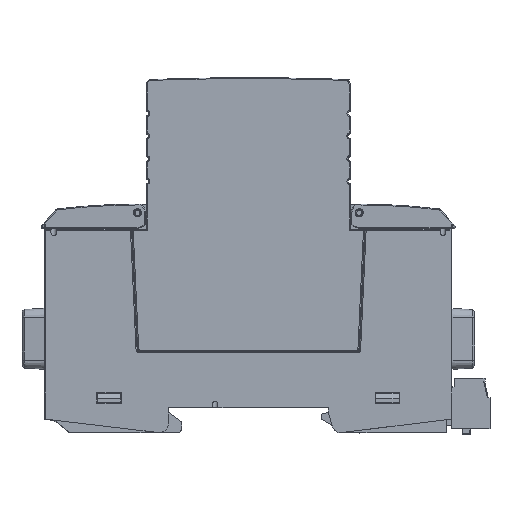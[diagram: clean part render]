
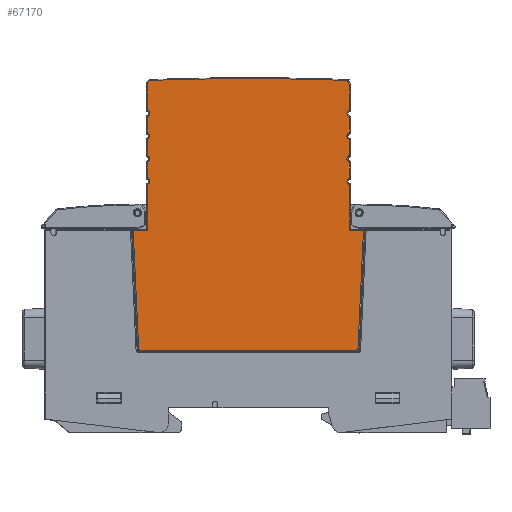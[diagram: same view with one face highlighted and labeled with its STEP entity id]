
A CAD part, top view. The second image highlights one B-rep face of the part: STEP entity #67170.
In plain terms, the highlighted planar face has unit normal (0, 0, 1) as drawn and (0, 0, -1) by its records, which use the part's own axes.
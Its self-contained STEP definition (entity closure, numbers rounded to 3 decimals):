
#1565=CIRCLE('',#70800,0.3);
#1568=CIRCLE('',#70805,0.3);
#1691=CIRCLE('',#71277,0.7);
#1702=CIRCLE('',#71297,0.7);
#1713=CIRCLE('',#71317,0.7);
#1724=CIRCLE('',#71337,0.7);
#1734=CIRCLE('',#71354,1.);
#1736=CIRCLE('',#71357,599.8);
#1737=CIRCLE('',#71359,1.);
#1744=CIRCLE('',#71372,0.7);
#1755=CIRCLE('',#71392,0.7);
#1767=CIRCLE('',#71413,0.7);
#1775=CIRCLE('',#71434,0.7);
#5678=ORIENTED_EDGE('',*,*,#24799,.T.);
#5679=ORIENTED_EDGE('',*,*,#24786,.T.);
#5680=ORIENTED_EDGE('',*,*,#24779,.T.);
#5681=ORIENTED_EDGE('',*,*,#24765,.T.);
#5682=ORIENTED_EDGE('',*,*,#24761,.T.);
#5683=ORIENTED_EDGE('',*,*,#24749,.T.);
#5684=ORIENTED_EDGE('',*,*,#24745,.T.);
#5685=ORIENTED_EDGE('',*,*,#23593,.T.);
#5686=ORIENTED_EDGE('',*,*,#24736,.T.);
#5687=ORIENTED_EDGE('',*,*,#24735,.T.);
#5688=ORIENTED_EDGE('',*,*,#24733,.T.);
#5689=ORIENTED_EDGE('',*,*,#24804,.T.);
#5690=ORIENTED_EDGE('',*,*,#24720,.T.);
#5691=ORIENTED_EDGE('',*,*,#24708,.T.);
#5692=ORIENTED_EDGE('',*,*,#24704,.T.);
#5693=ORIENTED_EDGE('',*,*,#24692,.T.);
#5694=ORIENTED_EDGE('',*,*,#24688,.T.);
#5695=ORIENTED_EDGE('',*,*,#24676,.T.);
#5696=ORIENTED_EDGE('',*,*,#24672,.T.);
#5697=ORIENTED_EDGE('',*,*,#23843,.T.);
#5698=ORIENTED_EDGE('',*,*,#23851,.T.);
#5699=ORIENTED_EDGE('',*,*,#23841,.T.);
#5700=ORIENTED_EDGE('',*,*,#23838,.T.);
#5701=ORIENTED_EDGE('',*,*,#23836,.T.);
#5702=ORIENTED_EDGE('',*,*,#23833,.T.);
#5703=ORIENTED_EDGE('',*,*,#23830,.T.);
#5704=ORIENTED_EDGE('',*,*,#23818,.T.);
#5705=ORIENTED_EDGE('',*,*,#24803,.T.);
#23593=EDGE_CURVE('',#33668,#33670,#40135,.T.);
#23818=EDGE_CURVE('',#33850,#33848,#40255,.T.);
#23830=EDGE_CURVE('',#33856,#33850,#40262,.T.);
#23833=EDGE_CURVE('',#33858,#33856,#1565,.T.);
#23836=EDGE_CURVE('',#33860,#33858,#40264,.T.);
#23838=EDGE_CURVE('',#33861,#33860,#1568,.T.);
#23841=EDGE_CURVE('',#33862,#33861,#40266,.T.);
#23843=EDGE_CURVE('',#33866,#33864,#40267,.T.);
#23851=EDGE_CURVE('',#33864,#33862,#40273,.T.);
#24672=EDGE_CURVE('',#34354,#33866,#1691,.T.);
#24676=EDGE_CURVE('',#34355,#34354,#40874,.T.);
#24688=EDGE_CURVE('',#34360,#34355,#1702,.T.);
#24692=EDGE_CURVE('',#34361,#34360,#40879,.T.);
#24704=EDGE_CURVE('',#34366,#34361,#1713,.T.);
#24708=EDGE_CURVE('',#34367,#34366,#40884,.T.);
#24720=EDGE_CURVE('',#34372,#34367,#1724,.T.);
#24733=EDGE_CURVE('',#34377,#34378,#1734,.T.);
#24735=EDGE_CURVE('',#34379,#34377,#1736,.T.);
#24736=EDGE_CURVE('',#33670,#34379,#1737,.T.);
#24745=EDGE_CURVE('',#34381,#33668,#1744,.T.);
#24749=EDGE_CURVE('',#34382,#34381,#40894,.T.);
#24761=EDGE_CURVE('',#34387,#34382,#1755,.T.);
#24765=EDGE_CURVE('',#34388,#34387,#40899,.T.);
#24779=EDGE_CURVE('',#34394,#34388,#1767,.T.);
#24786=EDGE_CURVE('',#34397,#34394,#40907,.T.);
#24799=EDGE_CURVE('',#34402,#34397,#1775,.T.);
#24803=EDGE_CURVE('',#33848,#34402,#40916,.T.);
#24804=EDGE_CURVE('',#34378,#34372,#40917,.T.);
#33668=VERTEX_POINT('',#95366);
#33670=VERTEX_POINT('',#95370);
#33848=VERTEX_POINT('',#95987);
#33850=VERTEX_POINT('',#95990);
#33856=VERTEX_POINT('',#96010);
#33858=VERTEX_POINT('',#96016);
#33860=VERTEX_POINT('',#96022);
#33861=VERTEX_POINT('',#96027);
#33862=VERTEX_POINT('',#96031);
#33864=VERTEX_POINT('',#96037);
#33866=VERTEX_POINT('',#96040);
#34354=VERTEX_POINT('',#98120);
#34355=VERTEX_POINT('',#98124);
#34360=VERTEX_POINT('',#98151);
#34361=VERTEX_POINT('',#98155);
#34366=VERTEX_POINT('',#98182);
#34367=VERTEX_POINT('',#98186);
#34372=VERTEX_POINT('',#98213);
#34377=VERTEX_POINT('',#98237);
#34378=VERTEX_POINT('',#98239);
#34379=VERTEX_POINT('',#98243);
#34381=VERTEX_POINT('',#98262);
#34382=VERTEX_POINT('',#98266);
#34387=VERTEX_POINT('',#98293);
#34388=VERTEX_POINT('',#98297);
#34394=VERTEX_POINT('',#98326);
#34397=VERTEX_POINT('',#98340);
#34402=VERTEX_POINT('',#98366);
#40135=LINE('',#95371,#48192);
#40255=LINE('',#95989,#48312);
#40262=LINE('',#96013,#48319);
#40264=LINE('',#96024,#48321);
#40266=LINE('',#96034,#48323);
#40267=LINE('',#96039,#48324);
#40273=LINE('',#96054,#48330);
#40874=LINE('',#98129,#48931);
#40879=LINE('',#98160,#48936);
#40884=LINE('',#98191,#48941);
#40894=LINE('',#98271,#48951);
#40899=LINE('',#98302,#48956);
#40907=LINE('',#98343,#48964);
#40916=LINE('',#98377,#48973);
#40917=LINE('',#98379,#48974);
#48192=VECTOR('',#76192,1000.);
#48312=VECTOR('',#76608,1000.);
#48319=VECTOR('',#76633,1000.);
#48321=VECTOR('',#76647,1000.);
#48323=VECTOR('',#76659,1000.);
#48324=VECTOR('',#76664,1000.);
#48330=VECTOR('',#76678,1000.);
#48931=VECTOR('',#78213,1000.);
#48936=VECTOR('',#78258,1000.);
#48941=VECTOR('',#78303,1000.);
#48951=VECTOR('',#78423,1000.);
#48956=VECTOR('',#78468,1000.);
#48964=VECTOR('',#78526,1000.);
#48973=VECTOR('',#78575,1000.);
#48974=VECTOR('',#78578,1000.);
#56651=EDGE_LOOP('',(#5678,#5679,#5680,#5681,#5682,#5683,#5684,#5685,#5686,
#5687,#5688,#5689,#5690,#5691,#5692,#5693,#5694,#5695,#5696,#5697,#5698,
#5699,#5700,#5701,#5702,#5703,#5704,#5705));
#60574=FACE_BOUND('',#56651,.T.);
#64240=PLANE('',#71441);
#67170=ADVANCED_FACE('',(#60574),#64240,.F.);
#70800=AXIS2_PLACEMENT_3D('',#96019,#76640,#76641);
#70805=AXIS2_PLACEMENT_3D('',#96028,#76652,#76653);
#71277=AXIS2_PLACEMENT_3D('',#98121,#78204,#78205);
#71297=AXIS2_PLACEMENT_3D('',#98152,#78249,#78250);
#71317=AXIS2_PLACEMENT_3D('',#98183,#78294,#78295);
#71337=AXIS2_PLACEMENT_3D('',#98214,#78339,#78340);
#71354=AXIS2_PLACEMENT_3D('',#98240,#78376,#78377);
#71357=AXIS2_PLACEMENT_3D('',#98244,#78382,#78383);
#71359=AXIS2_PLACEMENT_3D('',#98246,#78386,#78387);
#71372=AXIS2_PLACEMENT_3D('',#98263,#78414,#78415);
#71392=AXIS2_PLACEMENT_3D('',#98294,#78459,#78460);
#71413=AXIS2_PLACEMENT_3D('',#98329,#78507,#78508);
#71434=AXIS2_PLACEMENT_3D('',#98369,#78560,#78561);
#71441=AXIS2_PLACEMENT_3D('',#98378,#78576,#78577);
#76192=DIRECTION('',(0.,1.,0.));
#76608=DIRECTION('',(1.,0.,0.));
#76633=DIRECTION('',(-0.046,0.999,0.));
#76640=DIRECTION('',(0.,0.,-1.));
#76641=DIRECTION('',(0.,-1.,0.));
#76647=DIRECTION('',(-1.,0.,0.));
#76652=DIRECTION('',(0.,0.,-1.));
#76653=DIRECTION('',(0.999,-0.046,0.));
#76659=DIRECTION('',(-0.046,-0.999,0.));
#76664=DIRECTION('',(0.,-1.,0.));
#76678=DIRECTION('',(1.,0.,0.));
#78204=DIRECTION('',(0.,0.,1.));
#78205=DIRECTION('',(-0.286,0.958,0.));
#78213=DIRECTION('',(0.,-1.,0.));
#78249=DIRECTION('',(0.,0.,1.));
#78250=DIRECTION('',(-0.286,0.958,0.));
#78258=DIRECTION('',(0.,-1.,0.));
#78294=DIRECTION('',(0.,0.,1.));
#78295=DIRECTION('',(-0.286,0.958,0.));
#78303=DIRECTION('',(0.,-1.,0.));
#78339=DIRECTION('',(0.,0.,1.));
#78340=DIRECTION('',(-0.286,0.958,0.));
#78376=DIRECTION('',(0.,0.,-1.));
#78377=DIRECTION('',(0.036,0.999,0.));
#78382=DIRECTION('',(0.,0.,-1.));
#78383=DIRECTION('',(-0.036,0.999,0.));
#78386=DIRECTION('',(0.,0.,-1.));
#78387=DIRECTION('',(-1.,0.,0.));
#78414=DIRECTION('',(0.,0.,1.));
#78415=DIRECTION('',(0.286,-0.958,0.));
#78423=DIRECTION('',(0.,1.,0.));
#78459=DIRECTION('',(0.,0.,1.));
#78460=DIRECTION('',(0.286,-0.958,0.));
#78468=DIRECTION('',(0.,1.,0.));
#78507=DIRECTION('',(0.,0.,1.));
#78508=DIRECTION('',(0.286,-0.958,0.));
#78526=DIRECTION('',(0.,1.,0.));
#78560=DIRECTION('',(0.,0.,1.));
#78561=DIRECTION('',(0.286,-0.958,0.));
#78575=DIRECTION('',(0.,1.,0.));
#78576=DIRECTION('',(0.,0.,1.));
#78577=DIRECTION('',(1.,0.,0.));
#78578=DIRECTION('',(0.,-1.,0.));
#95366=CARTESIAN_POINT('',(-22.3,52.171,-26.9));
#95370=CARTESIAN_POINT('',(-22.3,57.843,-26.9));
#95371=CARTESIAN_POINT('',(-22.3,52.171,-26.9));
#95987=CARTESIAN_POINT('',(-22.3,25.72,-26.9));
#95989=CARTESIAN_POINT('',(-25.433,25.72,-26.9));
#95990=CARTESIAN_POINT('',(-25.433,25.72,-26.9));
#96010=CARTESIAN_POINT('',(-24.222,-0.514,-26.9));
#96013=CARTESIAN_POINT('',(-24.222,-0.514,-26.9));
#96016=CARTESIAN_POINT('',(-23.923,-0.8,-26.9));
#96019=CARTESIAN_POINT('',(-23.923,-0.5,-26.9));
#96022=CARTESIAN_POINT('',(23.923,-0.8,-26.9));
#96024=CARTESIAN_POINT('',(23.923,-0.8,-26.9));
#96027=CARTESIAN_POINT('',(24.222,-0.514,-26.9));
#96028=CARTESIAN_POINT('',(23.923,-0.5,-26.9));
#96031=CARTESIAN_POINT('',(25.433,25.72,-26.9));
#96034=CARTESIAN_POINT('',(25.433,25.72,-26.9));
#96037=CARTESIAN_POINT('',(22.3,25.72,-26.9));
#96039=CARTESIAN_POINT('',(22.3,35.829,-26.9));
#96040=CARTESIAN_POINT('',(22.3,35.829,-26.9));
#96054=CARTESIAN_POINT('',(22.3,25.72,-26.9));
#98120=CARTESIAN_POINT('',(22.3,37.171,-26.9));
#98121=CARTESIAN_POINT('',(22.5,36.5,-26.9));
#98124=CARTESIAN_POINT('',(22.3,40.829,-26.9));
#98129=CARTESIAN_POINT('',(22.3,40.829,-26.9));
#98151=CARTESIAN_POINT('',(22.3,42.171,-26.9));
#98152=CARTESIAN_POINT('',(22.5,41.5,-26.9));
#98155=CARTESIAN_POINT('',(22.3,45.829,-26.9));
#98160=CARTESIAN_POINT('',(22.3,45.829,-26.9));
#98182=CARTESIAN_POINT('',(22.3,47.171,-26.9));
#98183=CARTESIAN_POINT('',(22.5,46.5,-26.9));
#98186=CARTESIAN_POINT('',(22.3,50.829,-26.9));
#98191=CARTESIAN_POINT('',(22.3,50.829,-26.9));
#98213=CARTESIAN_POINT('',(22.3,52.171,-26.9));
#98214=CARTESIAN_POINT('',(22.5,51.5,-26.9));
#98237=CARTESIAN_POINT('',(21.336,58.842,-26.9));
#98239=CARTESIAN_POINT('',(22.3,57.843,-26.9));
#98240=CARTESIAN_POINT('',(21.3,57.843,-26.9));
#98243=CARTESIAN_POINT('',(-21.336,58.842,-26.9));
#98244=CARTESIAN_POINT('',(0.,-540.578,-26.9));
#98246=CARTESIAN_POINT('',(-21.3,57.843,-26.9));
#98262=CARTESIAN_POINT('',(-22.3,50.829,-26.9));
#98263=CARTESIAN_POINT('',(-22.5,51.5,-26.9));
#98266=CARTESIAN_POINT('',(-22.3,47.171,-26.9));
#98271=CARTESIAN_POINT('',(-22.3,47.171,-26.9));
#98293=CARTESIAN_POINT('',(-22.3,45.829,-26.9));
#98294=CARTESIAN_POINT('',(-22.5,46.5,-26.9));
#98297=CARTESIAN_POINT('',(-22.3,42.171,-26.9));
#98302=CARTESIAN_POINT('',(-22.3,42.171,-26.9));
#98326=CARTESIAN_POINT('',(-22.3,40.829,-26.9));
#98329=CARTESIAN_POINT('',(-22.5,41.5,-26.9));
#98340=CARTESIAN_POINT('',(-22.3,37.171,-26.9));
#98343=CARTESIAN_POINT('',(-22.3,37.171,-26.9));
#98366=CARTESIAN_POINT('',(-22.3,35.829,-26.9));
#98369=CARTESIAN_POINT('',(-22.5,36.5,-26.9));
#98377=CARTESIAN_POINT('',(-22.3,25.72,-26.9));
#98378=CARTESIAN_POINT('',(0.,0.,-26.9));
#98379=CARTESIAN_POINT('',(22.3,57.843,-26.9));
